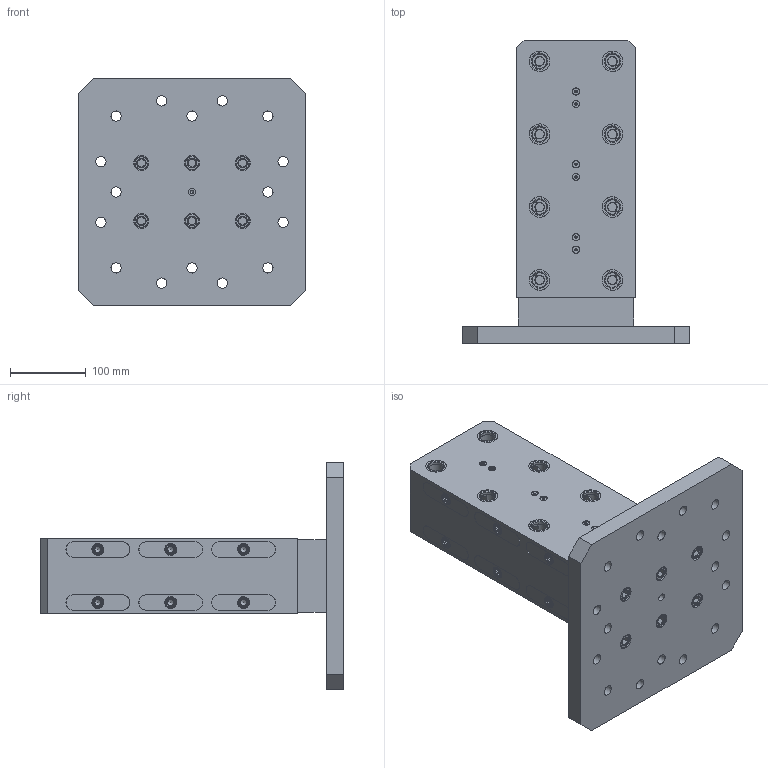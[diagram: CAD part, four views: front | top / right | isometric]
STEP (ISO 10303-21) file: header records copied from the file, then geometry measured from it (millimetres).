
FILE_DESCRIPTION (( 'STEP AP214' ), '1' );
FILE_NAME ('RL96A-3002-400_WEBSITE.step', '2025-08-11T11:16:54', ( '' ), ( '' ), 'SwSTEP 2.0', 'SolidWorks 2025', '' );
FILE_SCHEMA (( 'AUTOMOTIVE_DESIGN' ));
Length unit declared in the file: millimetre
Products named in the file (11): RL96A-3002-400_WEBSITE; SB54_WEBSITE_FINISHED PART; 91595A640_METRIC ALLOY STEEL DOWEL PIN_WEBSITE_91595A640; HW27X20.DB_WEBSITE_PLATING; RL96-2R_WEBSITE_PLATING; RL96-3_WEBSITE_PLATING; RL96-3002-337A_WEBSITE; 91290A628_Alloy Steel Socket Head Screw_WEBSITE_91290A628; MT-2337A_WEBSITE; RL96-3002BA_WEBSITE; RL96-2L_WEBSITE
Assembly tree (57 placements, depth 3):
  RL96A-3002-400_WEBSITE
    RL96-3002-337A_WEBSITE
      MT-2337A_WEBSITE
      RL96-3002BA_WEBSITE
      91290A628_Alloy Steel Socket Head Screw_WEBSITE_91290A628  x6
      91595A640_METRIC ALLOY STEEL DOWEL PIN_WEBSITE_91595A640  x2
    RL96-2R_WEBSITE_PLATING  x6
    RL96-2L_WEBSITE  x6
    HW27X20.DB_WEBSITE_PLATING  x16
    SB54_WEBSITE_FINISHED PART  x12
    RL96-3_WEBSITE_PLATING  x6
Bounding box: 300 x 400 x 300 mm (x, y, z)
Volume: 7397741.6 mm3; surface area: 813797.5 mm2
Topology: 56 solids, 56 shells, 1753 faces, 4057 edges, 2560 vertices
Faces by surface type: plane 1056, cylinder 475, cone 142, torus 76, sphere 4
Full cylindrical faces by diameter (mm): 2.642 x12, 3.3 x12, 4 x12, 4.7 x12, 5 x13, 5.182 x12, 8.204 x12, 9 x12, 9.525 x12, 10 x2, 10.013 x1, 10.02 x4, 10.2 x6, 10.795 x6, 11.938 x16, 12 x12, 12.379 x6, 12.573 x16, 13 x6, 13.5 x22, 14 x13, 15.748 x12, 17.4 x6, 18 x6, 19.05 x12, 19.101 x16, 19.99 x6, 20 x22, 20.015 x16, 20.035 x16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
Entity records: 20970 total; most frequent: CARTESIAN_POINT 5928, DIRECTION 3098, ORIENTED_EDGE 2324, AXIS2_PLACEMENT_3D 1336, EDGE_LOOP 1166, EDGE_CURVE 1162, VERTEX_POINT 906, FACE_OUTER_BOUND 892
